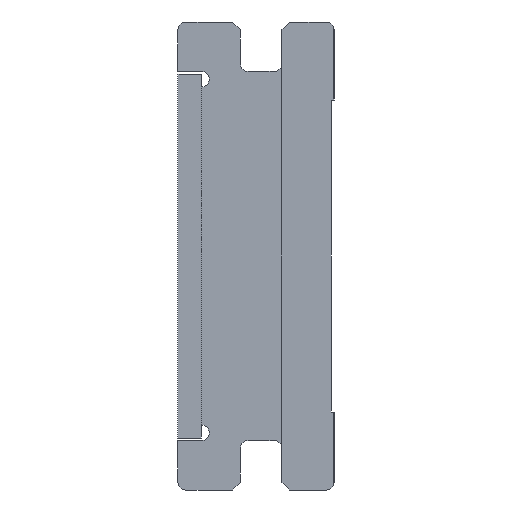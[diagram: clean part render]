
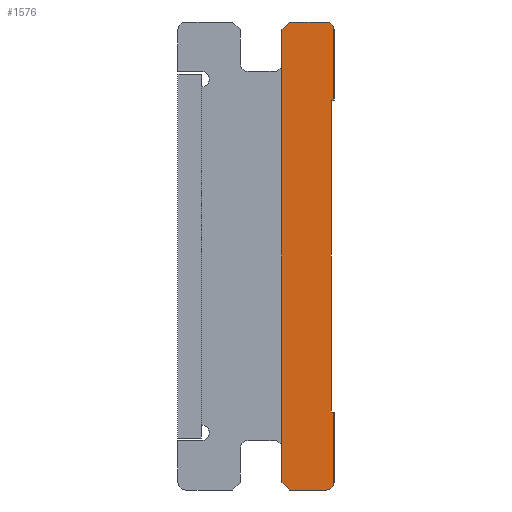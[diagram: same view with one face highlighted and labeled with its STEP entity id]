
A CAD part, left-side view. The second image highlights one B-rep face of the part: STEP entity #1576.
In plain terms, the highlighted planar face has unit normal (-1, 0, 0).
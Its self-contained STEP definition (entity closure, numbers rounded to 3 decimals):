
#2 = CARTESIAN_POINT ( 'NONE',  ( 0., 2., -0.3 ) ) ;
#12 = ORIENTED_EDGE ( 'NONE', *, *, #1664, .F. ) ;
#37 = CARTESIAN_POINT ( 'NONE',  ( 0., 0.3, 0. ) ) ;
#77 = DIRECTION ( 'NONE',  ( 0., 1., 0. ) ) ;
#89 = ORIENTED_EDGE ( 'NONE', *, *, #994, .F. ) ;
#123 = DIRECTION ( 'NONE',  ( 1., 0., 0. ) ) ;
#151 = CARTESIAN_POINT ( 'NONE',  ( 0., 2., -17.7 ) ) ;
#162 = LINE ( 'NONE', #1830, #1894 ) ;
#182 = VERTEX_POINT ( 'NONE', #931 ) ;
#204 = ORIENTED_EDGE ( 'NONE', *, *, #1268, .F. ) ;
#213 = VERTEX_POINT ( 'NONE', #2450 ) ;
#252 = CARTESIAN_POINT ( 'NONE',  ( 0., 0.3, -17.7 ) ) ;
#392 = CARTESIAN_POINT ( 'NONE',  ( 0., 1.7, -18. ) ) ;
#401 = PLANE ( 'NONE',  #2165 ) ;
#411 = CIRCLE ( 'NONE', #1849, 0.3 ) ;
#455 = CARTESIAN_POINT ( 'NONE',  ( 0., 1.7, 0. ) ) ;
#475 = CARTESIAN_POINT ( 'NONE',  ( 0., 0.3, -18. ) ) ;
#559 = VECTOR ( 'NONE', #666, 1000. ) ;
#598 = EDGE_CURVE ( 'NONE', #213, #1477, #2423, .T. ) ;
#604 = VERTEX_POINT ( 'NONE', #37 ) ;
#623 = LINE ( 'NONE', #392, #1360 ) ;
#664 = ORIENTED_EDGE ( 'NONE', *, *, #2299, .F. ) ;
#666 = DIRECTION ( 'NONE',  ( 0., 0., 1. ) ) ;
#679 = CARTESIAN_POINT ( 'NONE',  ( 0., 0., -0.3 ) ) ;
#680 = EDGE_CURVE ( 'NONE', #1367, #874, #1764, .T. ) ;
#692 = VERTEX_POINT ( 'NONE', #2171 ) ;
#733 = ORIENTED_EDGE ( 'NONE', *, *, #1962, .F. ) ;
#758 = EDGE_CURVE ( 'NONE', #1899, #182, #1249, .T. ) ;
#834 = DIRECTION ( 'NONE',  ( 0., 0., -1. ) ) ;
#874 = VERTEX_POINT ( 'NONE', #2 ) ;
#877 = VECTOR ( 'NONE', #1886, 1000. ) ;
#902 = ORIENTED_EDGE ( 'NONE', *, *, #1594, .F. ) ;
#909 = EDGE_CURVE ( 'NONE', #1348, #1367, #623, .T. ) ;
#922 = DIRECTION ( 'NONE',  ( 0., 0., 1. ) ) ;
#931 = CARTESIAN_POINT ( 'NONE',  ( 0., 0., -3. ) ) ;
#943 = LINE ( 'NONE', #2274, #1193 ) ;
#994 = EDGE_CURVE ( 'NONE', #1880, #692, #1858, .T. ) ;
#1018 = EDGE_CURVE ( 'NONE', #692, #213, #1516, .T. ) ;
#1063 = CARTESIAN_POINT ( 'NONE',  ( 0., 1.7, -18. ) ) ;
#1107 = CARTESIAN_POINT ( 'NONE',  ( 0., 0., -15. ) ) ;
#1127 = CARTESIAN_POINT ( 'NONE',  ( 0., 1.7, 0. ) ) ;
#1185 = CARTESIAN_POINT ( 'NONE',  ( 0., 0.3, -18. ) ) ;
#1193 = VECTOR ( 'NONE', #2088, 1000. ) ;
#1228 = LINE ( 'NONE', #475, #1301 ) ;
#1240 = CARTESIAN_POINT ( 'NONE',  ( 0., 0.1, -3. ) ) ;
#1249 = LINE ( 'NONE', #679, #1832 ) ;
#1259 = VECTOR ( 'NONE', #1801, 1000. ) ;
#1268 = EDGE_CURVE ( 'NONE', #874, #1874, #1305, .T. ) ;
#1301 = VECTOR ( 'NONE', #2025, 1000. ) ;
#1305 = LINE ( 'NONE', #1127, #877 ) ;
#1348 = VERTEX_POINT ( 'NONE', #1063 ) ;
#1360 = VECTOR ( 'NONE', #1923, 1000. ) ;
#1367 = VERTEX_POINT ( 'NONE', #151 ) ;
#1403 = LINE ( 'NONE', #1777, #1259 ) ;
#1474 = AXIS2_PLACEMENT_3D ( 'NONE', #252, #1754, #1579 ) ;
#1477 = VERTEX_POINT ( 'NONE', #1185 ) ;
#1507 = ORIENTED_EDGE ( 'NONE', *, *, #598, .F. ) ;
#1516 = LINE ( 'NONE', #1883, #2128 ) ;
#1576 = ADVANCED_FACE ( 'NONE', ( #2114 ), #401, .F. ) ;
#1579 = DIRECTION ( 'NONE',  ( 0., 0., -1. ) ) ;
#1594 = EDGE_CURVE ( 'NONE', #1477, #1348, #1228, .T. ) ;
#1616 = EDGE_LOOP ( 'NONE', ( #204, #2266, #2370, #902, #1507, #1903, #89, #733, #2408, #2073, #12, #664 ) ) ;
#1636 = CARTESIAN_POINT ( 'NONE',  ( 0., 0., -0.3 ) ) ;
#1664 = EDGE_CURVE ( 'NONE', #604, #1899, #411, .T. ) ;
#1754 = DIRECTION ( 'NONE',  ( 1., 0., 0. ) ) ;
#1764 = LINE ( 'NONE', #2355, #559 ) ;
#1777 = CARTESIAN_POINT ( 'NONE',  ( 0., 0., -3. ) ) ;
#1779 = VERTEX_POINT ( 'NONE', #1240 ) ;
#1783 = EDGE_CURVE ( 'NONE', #182, #1779, #1403, .T. ) ;
#1801 = DIRECTION ( 'NONE',  ( 0., 1., 0. ) ) ;
#1810 = VECTOR ( 'NONE', #1870, 1000. ) ;
#1830 = CARTESIAN_POINT ( 'NONE',  ( 0., 0.1, -3. ) ) ;
#1832 = VECTOR ( 'NONE', #834, 1000. ) ;
#1849 = AXIS2_PLACEMENT_3D ( 'NONE', #1877, #2435, #922 ) ;
#1858 = LINE ( 'NONE', #1107, #1810 ) ;
#1870 = DIRECTION ( 'NONE',  ( 0., -1., 0. ) ) ;
#1874 = VERTEX_POINT ( 'NONE', #455 ) ;
#1877 = CARTESIAN_POINT ( 'NONE',  ( 0., 0.3, -0.3 ) ) ;
#1880 = VERTEX_POINT ( 'NONE', #1983 ) ;
#1883 = CARTESIAN_POINT ( 'NONE',  ( 0., 0., -15. ) ) ;
#1886 = DIRECTION ( 'NONE',  ( 0., -0.707, 0.707 ) ) ;
#1894 = VECTOR ( 'NONE', #2438, 1000. ) ;
#1899 = VERTEX_POINT ( 'NONE', #1636 ) ;
#1903 = ORIENTED_EDGE ( 'NONE', *, *, #1018, .F. ) ;
#1923 = DIRECTION ( 'NONE',  ( 0., 0.707, 0.707 ) ) ;
#1962 = EDGE_CURVE ( 'NONE', #1779, #1880, #162, .T. ) ;
#1983 = CARTESIAN_POINT ( 'NONE',  ( 0., 0.1, -15. ) ) ;
#2025 = DIRECTION ( 'NONE',  ( 0., 1., 0. ) ) ;
#2070 = DIRECTION ( 'NONE',  ( 0., 0., -1. ) ) ;
#2073 = ORIENTED_EDGE ( 'NONE', *, *, #758, .F. ) ;
#2088 = DIRECTION ( 'NONE',  ( 0., -1., 0. ) ) ;
#2114 = FACE_OUTER_BOUND ( 'NONE', #1616, .T. ) ;
#2128 = VECTOR ( 'NONE', #2070, 1000. ) ;
#2165 = AXIS2_PLACEMENT_3D ( 'NONE', #2185, #123, #77 ) ;
#2171 = CARTESIAN_POINT ( 'NONE',  ( 0., 0., -15. ) ) ;
#2185 = CARTESIAN_POINT ( 'NONE',  ( 0., 5.1, -15.8 ) ) ;
#2266 = ORIENTED_EDGE ( 'NONE', *, *, #680, .F. ) ;
#2274 = CARTESIAN_POINT ( 'NONE',  ( 0., 0.3, 0. ) ) ;
#2299 = EDGE_CURVE ( 'NONE', #1874, #604, #943, .T. ) ;
#2355 = CARTESIAN_POINT ( 'NONE',  ( 0., 2., -17.7 ) ) ;
#2370 = ORIENTED_EDGE ( 'NONE', *, *, #909, .F. ) ;
#2408 = ORIENTED_EDGE ( 'NONE', *, *, #1783, .F. ) ;
#2423 = CIRCLE ( 'NONE', #1474, 0.3 ) ;
#2435 = DIRECTION ( 'NONE',  ( 1., 0., 0. ) ) ;
#2438 = DIRECTION ( 'NONE',  ( 0., 0., -1. ) ) ;
#2450 = CARTESIAN_POINT ( 'NONE',  ( 0., 0., -17.7 ) ) ;
